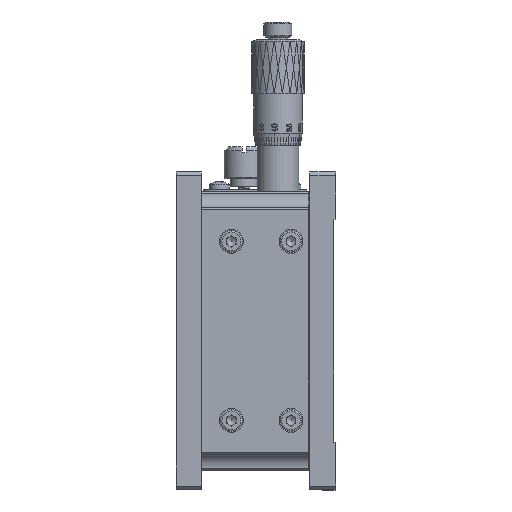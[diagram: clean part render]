
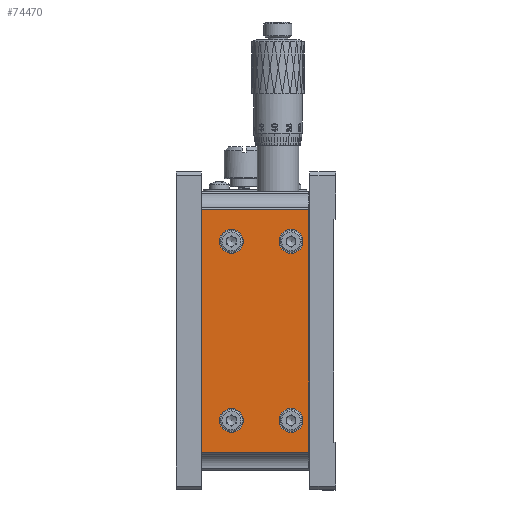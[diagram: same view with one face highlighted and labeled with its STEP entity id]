
A CAD part, left-side view. The second image highlights one B-rep face of the part: STEP entity #74470.
In plain terms, the highlighted planar face has unit normal (-1, 0, 0).
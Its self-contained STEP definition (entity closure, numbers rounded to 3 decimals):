
#292 = EDGE_CURVE ( 'NONE', #22104, #22104, #73291, .T. ) ;
#1817 = DIRECTION ( 'NONE',  ( -1., 0., 0. ) ) ;
#2108 = DIRECTION ( 'NONE',  ( 0., 0., -1. ) ) ;
#2801 = LINE ( 'NONE', #9516, #40576 ) ;
#8265 = DIRECTION ( 'NONE',  ( 0., 0., -1. ) ) ;
#8323 = CARTESIAN_POINT ( 'NONE',  ( 8.766, 29.657, -1.052 ) ) ;
#8474 = CARTESIAN_POINT ( 'NONE',  ( 8.766, 34.157, 56.448 ) ) ;
#8720 = DIRECTION ( 'NONE',  ( 0., 0., 1. ) ) ;
#8824 = CARTESIAN_POINT ( 'NONE',  ( 8.766, 56.657, -1.052 ) ) ;
#9516 = CARTESIAN_POINT ( 'NONE',  ( 8.766, 29.657, -1.052 ) ) ;
#9702 = CARTESIAN_POINT ( 'NONE',  ( 8.766, 49.157, 11.448 ) ) ;
#11074 = EDGE_LOOP ( 'NONE', ( #30017 ) ) ;
#11180 = ORIENTED_EDGE ( 'NONE', *, *, #46386, .T. ) ;
#13056 = CARTESIAN_POINT ( 'NONE',  ( 8.766, 34.157, 8.448 ) ) ;
#13628 = CARTESIAN_POINT ( 'NONE',  ( 8.766, 49.157, 56.448 ) ) ;
#13927 = CARTESIAN_POINT ( 'NONE',  ( 8.766, 34.157, 53.448 ) ) ;
#15468 = PLANE ( 'NONE',  #70833 ) ;
#15868 = EDGE_CURVE ( 'NONE', #25829, #79334, #25549, .T. ) ;
#18106 = EDGE_LOOP ( 'NONE', ( #63245 ) ) ;
#18346 = CIRCLE ( 'NONE', #54736, 3. ) ;
#18362 = ORIENTED_EDGE ( 'NONE', *, *, #15868, .T. ) ;
#19209 = EDGE_CURVE ( 'NONE', #71565, #79334, #2801, .T. ) ;
#19221 = CARTESIAN_POINT ( 'NONE',  ( 8.766, 29.657, 3.448 ) ) ;
#21182 = ORIENTED_EDGE ( 'NONE', *, *, #25877, .F. ) ;
#22104 = VERTEX_POINT ( 'NONE', #48278 ) ;
#22765 = DIRECTION ( 'NONE',  ( -1., 0., 0. ) ) ;
#23640 = EDGE_CURVE ( 'NONE', #71565, #60340, #58181, .T. ) ;
#25549 = LINE ( 'NONE', #19221, #68739 ) ;
#25829 = VERTEX_POINT ( 'NONE', #76342 ) ;
#25877 = EDGE_CURVE ( 'NONE', #26546, #26546, #52528, .T. ) ;
#26546 = VERTEX_POINT ( 'NONE', #13056 ) ;
#28232 = VECTOR ( 'NONE', #2108, 1000. ) ;
#30017 = ORIENTED_EDGE ( 'NONE', *, *, #76304, .F. ) ;
#30743 = VERTEX_POINT ( 'NONE', #42993 ) ;
#34214 = DIRECTION ( 'NONE',  ( 0., 0., -1. ) ) ;
#34890 = AXIS2_PLACEMENT_3D ( 'NONE', #8474, #77741, #34214 ) ;
#36084 = EDGE_LOOP ( 'NONE', ( #21182 ) ) ;
#36715 = ORIENTED_EDGE ( 'NONE', *, *, #23640, .T. ) ;
#36816 = AXIS2_PLACEMENT_3D ( 'NONE', #13628, #1817, #51621 ) ;
#38592 = CARTESIAN_POINT ( 'NONE',  ( 8.766, 56.657, 64.448 ) ) ;
#39536 = CARTESIAN_POINT ( 'NONE',  ( 8.766, 34.157, 11.448 ) ) ;
#40576 = VECTOR ( 'NONE', #8265, 1000. ) ;
#40799 = FACE_BOUND ( 'NONE', #11074, .T. ) ;
#41720 = AXIS2_PLACEMENT_3D ( 'NONE', #39536, #65314, #57721 ) ;
#42059 = FACE_BOUND ( 'NONE', #18106, .T. ) ;
#42993 = CARTESIAN_POINT ( 'NONE',  ( 8.766, 49.157, 8.448 ) ) ;
#45004 = DIRECTION ( 'NONE',  ( 0., -1., 0. ) ) ;
#46386 = EDGE_CURVE ( 'NONE', #60340, #25829, #66696, .T. ) ;
#47581 = FACE_BOUND ( 'NONE', #82809, .T. ) ;
#48278 = CARTESIAN_POINT ( 'NONE',  ( 8.766, 49.157, 53.448 ) ) ;
#50506 = EDGE_LOOP ( 'NONE', ( #58358, #36715, #11180, #18362 ) ) ;
#50986 = DIRECTION ( 'NONE',  ( 0., 1., 0. ) ) ;
#51621 = DIRECTION ( 'NONE',  ( 0., 0., -1. ) ) ;
#52528 = CIRCLE ( 'NONE', #41720, 3. ) ;
#52779 = VERTEX_POINT ( 'NONE', #13927 ) ;
#52950 = ORIENTED_EDGE ( 'NONE', *, *, #292, .F. ) ;
#54334 = DIRECTION ( 'NONE',  ( 1., 0., 0. ) ) ;
#54736 = AXIS2_PLACEMENT_3D ( 'NONE', #9702, #22765, #62043 ) ;
#55525 = CARTESIAN_POINT ( 'NONE',  ( 8.766, 29.657, 3.448 ) ) ;
#57721 = DIRECTION ( 'NONE',  ( 0., 0., -1. ) ) ;
#58181 = LINE ( 'NONE', #83103, #61750 ) ;
#58358 = ORIENTED_EDGE ( 'NONE', *, *, #19209, .F. ) ;
#59825 = FACE_OUTER_BOUND ( 'NONE', #50506, .T. ) ;
#60340 = VERTEX_POINT ( 'NONE', #38592 ) ;
#61750 = VECTOR ( 'NONE', #50986, 1000. ) ;
#62043 = DIRECTION ( 'NONE',  ( 0., 0., -1. ) ) ;
#63245 = ORIENTED_EDGE ( 'NONE', *, *, #68291, .F. ) ;
#65314 = DIRECTION ( 'NONE',  ( -1., 0., 0. ) ) ;
#66140 = CARTESIAN_POINT ( 'NONE',  ( 8.766, 29.657, 64.448 ) ) ;
#66696 = LINE ( 'NONE', #8824, #28232 ) ;
#68291 = EDGE_CURVE ( 'NONE', #52779, #52779, #71326, .T. ) ;
#68739 = VECTOR ( 'NONE', #45004, 1000. ) ;
#70833 = AXIS2_PLACEMENT_3D ( 'NONE', #8323, #54334, #8720 ) ;
#71326 = CIRCLE ( 'NONE', #34890, 3. ) ;
#71565 = VERTEX_POINT ( 'NONE', #66140 ) ;
#72517 = FACE_BOUND ( 'NONE', #36084, .T. ) ;
#73291 = CIRCLE ( 'NONE', #36816, 3. ) ;
#74470 = ADVANCED_FACE ( 'NONE', ( #40799, #42059, #59825, #47581, #72517 ), #15468, .F. ) ;
#76304 = EDGE_CURVE ( 'NONE', #30743, #30743, #18346, .T. ) ;
#76342 = CARTESIAN_POINT ( 'NONE',  ( 8.766, 56.657, 3.448 ) ) ;
#77741 = DIRECTION ( 'NONE',  ( -1., 0., 0. ) ) ;
#79334 = VERTEX_POINT ( 'NONE', #55525 ) ;
#82809 = EDGE_LOOP ( 'NONE', ( #52950 ) ) ;
#83103 = CARTESIAN_POINT ( 'NONE',  ( 8.766, 29.657, 64.448 ) ) ;
